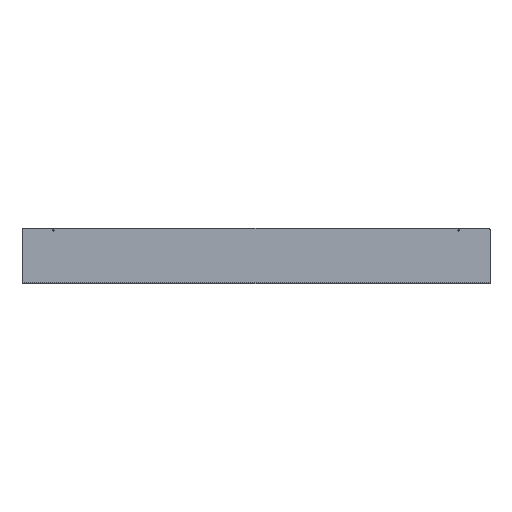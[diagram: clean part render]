
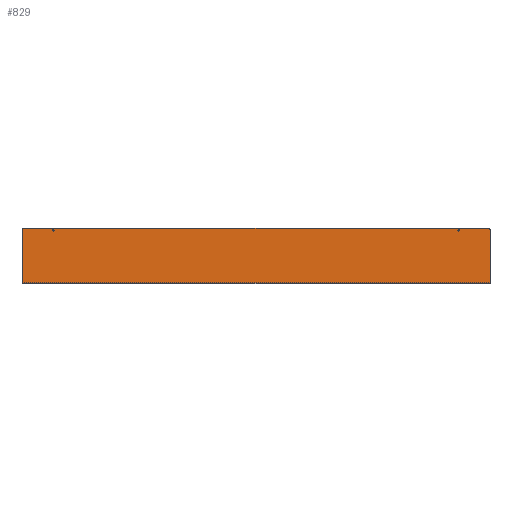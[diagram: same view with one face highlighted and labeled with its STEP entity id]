
A CAD part, top view. The second image highlights one B-rep face of the part: STEP entity #829.
In plain terms, the highlighted planar face has unit normal (0, 0, 1).
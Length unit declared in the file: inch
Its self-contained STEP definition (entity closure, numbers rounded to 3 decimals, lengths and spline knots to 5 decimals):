
#219=CARTESIAN_POINT('',(29.625,3.5,0.055));
#220=VERTEX_POINT('',#219);
#221=CARTESIAN_POINT('',(29.75,3.375,0.055));
#222=VERTEX_POINT('',#221);
#223=CARTESIAN_POINT('',(29.625,3.375,0.055));
#224=DIRECTION('',(0.0,0.0,-1.0));
#225=DIRECTION('',(0.707,0.707,0.0));
#226=AXIS2_PLACEMENT_3D('',#223,#224,#225);
#227=CIRCLE('',#226,0.125);
#228=EDGE_CURVE('',#220,#222,#227,.T.);
#270=CARTESIAN_POINT('',(-29.625,3.5,0.055));
#271=VERTEX_POINT('',#270);
#278=CARTESIAN_POINT('',(-29.625,3.5,0.055));
#279=DIRECTION('',(1.0,0.0,0.0));
#280=VECTOR('',#279,59.25);
#281=LINE('',#278,#280);
#282=EDGE_CURVE('',#271,#220,#281,.T.);
#355=CARTESIAN_POINT('',(-29.75,3.375,0.055));
#356=VERTEX_POINT('',#355);
#357=CARTESIAN_POINT('',(-29.625,3.375,0.055));
#358=DIRECTION('',(0.0,0.0,-1.0));
#359=DIRECTION('',(-0.707,0.707,0.0));
#360=AXIS2_PLACEMENT_3D('',#357,#358,#359);
#361=CIRCLE('',#360,0.125);
#362=EDGE_CURVE('',#356,#271,#361,.T.);
#382=CARTESIAN_POINT('',(-29.75,-3.414,0.055));
#383=VERTEX_POINT('',#382);
#390=CARTESIAN_POINT('',(-29.75,-3.414,0.055));
#391=DIRECTION('',(0.0,1.0,0.0));
#392=VECTOR('',#391,6.789);
#393=LINE('',#390,#392);
#394=EDGE_CURVE('',#383,#356,#393,.T.);
#620=CARTESIAN_POINT('',(-25.8385,3.25,0.055));
#621=VERTEX_POINT('',#620);
#622=CARTESIAN_POINT('',(-25.75,3.25,0.055));
#623=DIRECTION('',(0.0,0.0,-1.0));
#624=DIRECTION('',(1.0,0.0,0.0));
#625=AXIS2_PLACEMENT_3D('',#622,#623,#624);
#626=CIRCLE('',#625,0.0885);
#627=EDGE_CURVE('',#621,#621,#626,.T.);
#640=CARTESIAN_POINT('',(25.6615,3.25,0.055));
#641=VERTEX_POINT('',#640);
#642=CARTESIAN_POINT('',(25.75,3.25,0.055));
#643=DIRECTION('',(0.0,0.0,-1.0));
#644=DIRECTION('',(1.0,0.0,0.0));
#645=AXIS2_PLACEMENT_3D('',#642,#643,#644);
#646=CIRCLE('',#645,0.0885);
#647=EDGE_CURVE('',#641,#641,#646,.T.);
#709=CARTESIAN_POINT('',(29.75,-3.414,0.055));
#710=VERTEX_POINT('',#709);
#783=CARTESIAN_POINT('',(-29.75,-3.414,0.055));
#784=DIRECTION('',(1.0,0.0,0.0));
#785=VECTOR('',#784,59.5);
#786=LINE('',#783,#785);
#787=EDGE_CURVE('',#383,#710,#786,.T.);
#799=CARTESIAN_POINT('',(29.75,3.375,0.055));
#800=DIRECTION('',(0.0,-1.0,0.0));
#801=VECTOR('',#800,6.789);
#802=LINE('',#799,#801);
#803=EDGE_CURVE('',#222,#710,#802,.T.);
#810=CARTESIAN_POINT('',(0.0,0.,0.055));
#811=DIRECTION('',(0.0,0.0,1.0));
#812=DIRECTION('',(1.0,0.0,0.0));
#813=AXIS2_PLACEMENT_3D('',#810,#811,#812);
#814=PLANE('',#813);
#815=ORIENTED_EDGE('',*,*,#228,.F.);
#816=ORIENTED_EDGE('',*,*,#282,.F.);
#817=ORIENTED_EDGE('',*,*,#362,.F.);
#818=ORIENTED_EDGE('',*,*,#394,.F.);
#819=ORIENTED_EDGE('',*,*,#787,.T.);
#820=ORIENTED_EDGE('',*,*,#803,.F.);
#821=EDGE_LOOP('',(#815,#816,#817,#818,#819,#820));
#822=FACE_OUTER_BOUND('',#821,.T.);
#823=ORIENTED_EDGE('',*,*,#627,.T.);
#824=EDGE_LOOP('',(#823));
#825=FACE_BOUND('',#824,.T.);
#826=ORIENTED_EDGE('',*,*,#647,.T.);
#827=EDGE_LOOP('',(#826));
#828=FACE_BOUND('',#827,.T.);
#829=ADVANCED_FACE('',(#822,#825,#828),#814,.T.);
